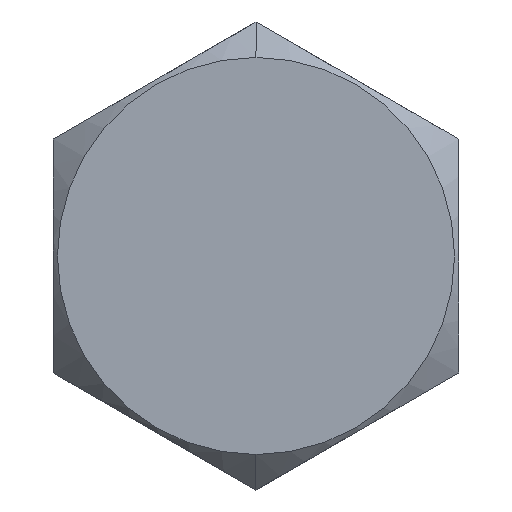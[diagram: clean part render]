
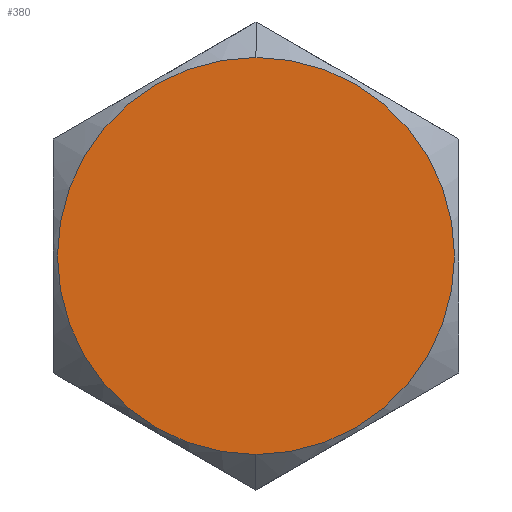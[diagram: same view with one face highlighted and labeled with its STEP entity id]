
A CAD part, left-side view. The second image highlights one B-rep face of the part: STEP entity #380.
In plain terms, the highlighted planar face has unit normal (-1, 0, 0).
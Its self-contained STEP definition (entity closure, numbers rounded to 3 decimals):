
#146 = CARTESIAN_POINT ( 'NONE',  ( 0., 0., 0. ) ) ;
#152 = CARTESIAN_POINT ( 'NONE',  ( 0., 0., 7.838 ) ) ;
#161 = DIRECTION ( 'NONE',  ( 0., 0., -1. ) ) ;
#179 = AXIS2_PLACEMENT_3D ( 'NONE', #260, #510, #161 ) ;
#210 = EDGE_CURVE ( 'NONE', #222, #373, #397, .T. ) ;
#222 = VERTEX_POINT ( 'NONE', #152 ) ;
#229 = DIRECTION ( 'NONE',  ( 0., 0., -1. ) ) ;
#256 = PLANE ( 'NONE',  #645 ) ;
#260 = CARTESIAN_POINT ( 'NONE',  ( 0., 0., 0. ) ) ;
#289 = CARTESIAN_POINT ( 'NONE',  ( 0., 0., 0. ) ) ;
#339 = DIRECTION ( 'NONE',  ( 0., 0., -1. ) ) ;
#367 = CIRCLE ( 'NONE', #179, 7.838 ) ;
#373 = VERTEX_POINT ( 'NONE', #602 ) ;
#380 = ADVANCED_FACE ( 'NONE', ( #731 ), #256, .F. ) ;
#397 = CIRCLE ( 'NONE', #467, 7.838 ) ;
#467 = AXIS2_PLACEMENT_3D ( 'NONE', #146, #781, #339 ) ;
#510 = DIRECTION ( 'NONE',  ( 1., 0., 0. ) ) ;
#548 = DIRECTION ( 'NONE',  ( 1., 0., 0. ) ) ;
#602 = CARTESIAN_POINT ( 'NONE',  ( 0., 0., -7.838 ) ) ;
#634 = EDGE_CURVE ( 'NONE', #373, #222, #367, .T. ) ;
#645 = AXIS2_PLACEMENT_3D ( 'NONE', #289, #548, #229 ) ;
#709 = EDGE_LOOP ( 'NONE', ( #791, #811 ) ) ;
#731 = FACE_OUTER_BOUND ( 'NONE', #709, .T. ) ;
#781 = DIRECTION ( 'NONE',  ( 1., 0., 0. ) ) ;
#791 = ORIENTED_EDGE ( 'NONE', *, *, #634, .F. ) ;
#811 = ORIENTED_EDGE ( 'NONE', *, *, #210, .F. ) ;
